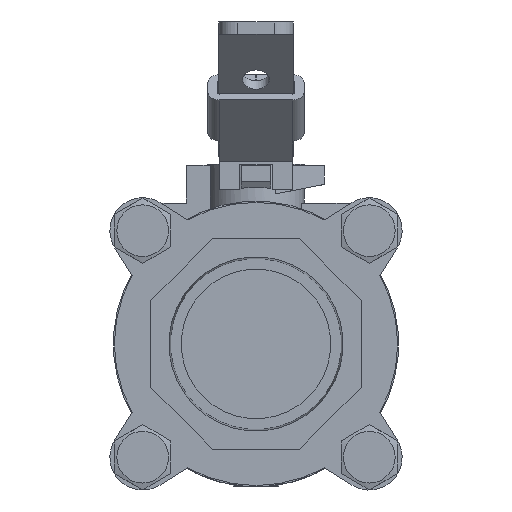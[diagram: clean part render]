
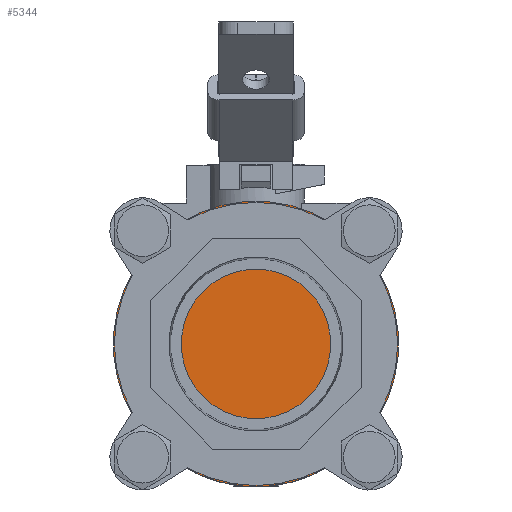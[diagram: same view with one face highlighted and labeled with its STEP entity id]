
A CAD part, left-side view. The second image highlights one B-rep face of the part: STEP entity #5344.
In plain terms, the highlighted planar face has unit normal (-1, 0, 0).
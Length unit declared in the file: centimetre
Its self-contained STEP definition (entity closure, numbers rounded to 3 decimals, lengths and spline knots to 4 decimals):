
#4834=CARTESIAN_POINT('',(6.8101,-11.1872,-4.4247));
#4835=VERTEX_POINT('',#4834);
#4842=CARTESIAN_POINT('',(6.8101,-11.3581,-4.2538));
#4843=VERTEX_POINT('',#4842);
#4844=CARTESIAN_POINT('',(6.8101,-11.1076,-4.1741));
#4845=DIRECTION('',(1.0,0.0,0.0));
#4846=DIRECTION('',(0.0,-1.0,0.0));
#4847=AXIS2_PLACEMENT_3D('',#4844,#4845,#4846);
#4848=CIRCLE('',#4847,0.2629);
#4849=EDGE_CURVE('',#4843,#4835,#4848,.T.);
#4960=CARTESIAN_POINT('',(6.8101,-13.8402,-4.2538));
#4961=VERTEX_POINT('',#4960);
#4968=CARTESIAN_POINT('',(6.8101,-14.0111,-4.4247));
#4969=VERTEX_POINT('',#4968);
#4970=CARTESIAN_POINT('',(6.8101,-14.0908,-4.1741));
#4971=DIRECTION('',(1.0,0.0,0.0));
#4972=DIRECTION('',(0.0,1.0,0.0));
#4973=AXIS2_PLACEMENT_3D('',#4970,#4971,#4972);
#4974=CIRCLE('',#4973,0.2629);
#4975=EDGE_CURVE('',#4969,#4961,#4974,.T.);
#5086=CARTESIAN_POINT('',(6.8101,-14.0111,-6.9072));
#5087=VERTEX_POINT('',#5086);
#5094=CARTESIAN_POINT('',(6.8101,-13.8402,-7.0781));
#5095=VERTEX_POINT('',#5094);
#5096=CARTESIAN_POINT('',(6.8101,-14.0908,-7.1577));
#5097=DIRECTION('',(1.0,0.0,0.0));
#5098=DIRECTION('',(0.0,1.0,0.0));
#5099=AXIS2_PLACEMENT_3D('',#5096,#5097,#5098);
#5100=CIRCLE('',#5099,0.2629);
#5101=EDGE_CURVE('',#5095,#5087,#5100,.T.);
#5170=CARTESIAN_POINT('',(6.8101,-11.3581,-7.0781));
#5171=VERTEX_POINT('',#5170);
#5178=CARTESIAN_POINT('',(6.8101,-11.1872,-6.9072));
#5179=VERTEX_POINT('',#5178);
#5180=CARTESIAN_POINT('',(6.8101,-11.1076,-7.1577));
#5181=DIRECTION('',(1.0,0.0,0.0));
#5182=DIRECTION('',(0.0,-1.0,0.0));
#5183=AXIS2_PLACEMENT_3D('',#5180,#5181,#5182);
#5184=CIRCLE('',#5183,0.2629);
#5185=EDGE_CURVE('',#5179,#5171,#5184,.T.);
#5305=CARTESIAN_POINT('',(6.8101,-12.5992,-5.6659));
#5306=DIRECTION('',(1.0,0.0,0.0));
#5307=DIRECTION('',(0.0,0.0,-1.0));
#5308=AXIS2_PLACEMENT_3D('',#5305,#5306,#5307);
#5309=PLANE('',#5308);
#5310=ORIENTED_EDGE('',*,*,#4849,.T.);
#5311=CARTESIAN_POINT('',(6.8101,-12.5992,-5.6659));
#5312=DIRECTION('',(1.0,0.0,0.0));
#5313=DIRECTION('',(0.0,1.0,0.0));
#5314=AXIS2_PLACEMENT_3D('',#5311,#5312,#5313);
#5315=CIRCLE('',#5314,1.88);
#5316=EDGE_CURVE('',#5179,#4835,#5315,.T.);
#5317=ORIENTED_EDGE('',*,*,#5316,.F.);
#5318=ORIENTED_EDGE('',*,*,#5185,.T.);
#5319=CARTESIAN_POINT('',(6.8101,-12.5992,-5.6659));
#5320=DIRECTION('',(1.0,0.0,0.0));
#5321=DIRECTION('',(0.0,1.0,0.0));
#5322=AXIS2_PLACEMENT_3D('',#5319,#5320,#5321);
#5323=CIRCLE('',#5322,1.88);
#5324=EDGE_CURVE('',#5095,#5171,#5323,.T.);
#5325=ORIENTED_EDGE('',*,*,#5324,.F.);
#5326=ORIENTED_EDGE('',*,*,#5101,.T.);
#5327=CARTESIAN_POINT('',(6.8101,-12.5992,-5.6659));
#5328=DIRECTION('',(1.0,0.0,0.0));
#5329=DIRECTION('',(0.0,1.0,0.0));
#5330=AXIS2_PLACEMENT_3D('',#5327,#5328,#5329);
#5331=CIRCLE('',#5330,1.88);
#5332=EDGE_CURVE('',#4969,#5087,#5331,.T.);
#5333=ORIENTED_EDGE('',*,*,#5332,.F.);
#5334=ORIENTED_EDGE('',*,*,#4975,.T.);
#5335=CARTESIAN_POINT('',(6.8101,-12.5992,-5.6659));
#5336=DIRECTION('',(1.0,0.0,0.0));
#5337=DIRECTION('',(0.0,1.0,0.0));
#5338=AXIS2_PLACEMENT_3D('',#5335,#5336,#5337);
#5339=CIRCLE('',#5338,1.88);
#5340=EDGE_CURVE('',#4843,#4961,#5339,.T.);
#5341=ORIENTED_EDGE('',*,*,#5340,.F.);
#5342=EDGE_LOOP('',(#5310,#5317,#5318,#5325,#5326,#5333,#5334,#5341));
#5343=FACE_OUTER_BOUND('',#5342,.T.);
#5344=ADVANCED_FACE('',(#5343),#5309,.F.);
